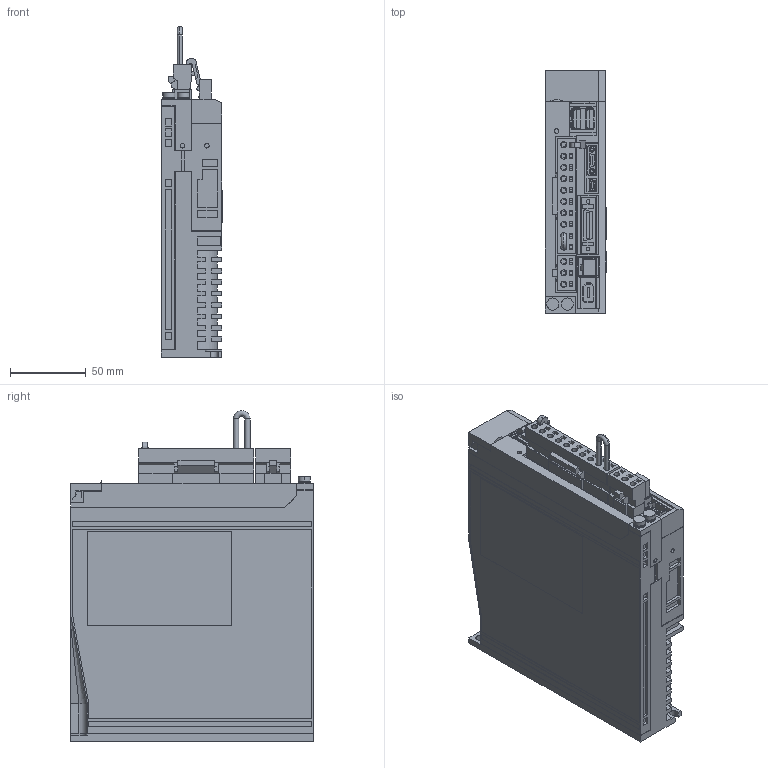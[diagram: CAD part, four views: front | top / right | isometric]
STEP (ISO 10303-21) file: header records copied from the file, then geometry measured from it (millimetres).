
FILE_DESCRIPTION (( 'STEP AP203' ), '1' );
FILE_NAME ('sgdv_2r8a1_a.STEP', '2008-06-17T08:25:11', ( 'T' ), ( 'T' ), 'SwSTEP 2.0', 'SolidWorks 2006052', '' );
FILE_SCHEMA (( 'CONFIG_CONTROL_DESIGN' ));
Products named in the file (10): sgdv_2r8a1_a_cable; sgdv_2r8a1_a_pin; sgdv_2r8a1_a; sgdv_2r8a1_a_base; sgdv_2r8a1_a_connector; sgdv_2r8a1_a_connector_2; sgdv_2r8a1_a_connector_1; sgdv_2r8a1_a_cover; sgdv_2r8a1_a_cover2; sgdv_2r8a1_a_connector_3
Assembly tree (10 placements, depth 3):
  sgdv_2r8a1_a
    sgdv_2r8a1_a_cover2  x2
    sgdv_2r8a1_a_cover
    sgdv_2r8a1_a_connector_3
    sgdv_2r8a1_a_connector_1
    sgdv_2r8a1_a_base
    sgdv_2r8a1_a_connector
      sgdv_2r8a1_a_connector_2
      sgdv_2r8a1_a_cable
      sgdv_2r8a1_a_pin
Bounding box: 40.5 x 160 x 218 mm (x, y, z)
Volume: 994008.8 mm3; surface area: 156958.9 mm2
Topology: 9 solids, 9 shells, 1908 faces, 5094 edges, 3359 vertices
Faces by surface type: plane 1714, cylinder 186, cone 4, torus 2, sphere 1, bspline 1
Entity records: 58970 total; most frequent: CARTESIAN_POINT 10342, ORIENTED_EDGE 10080, DIRECTION 9269, EDGE_CURVE 5040, LINE 4597, VECTOR 4597, VERTEX_POINT 3323, AXIS2_PLACEMENT_3D 2336
